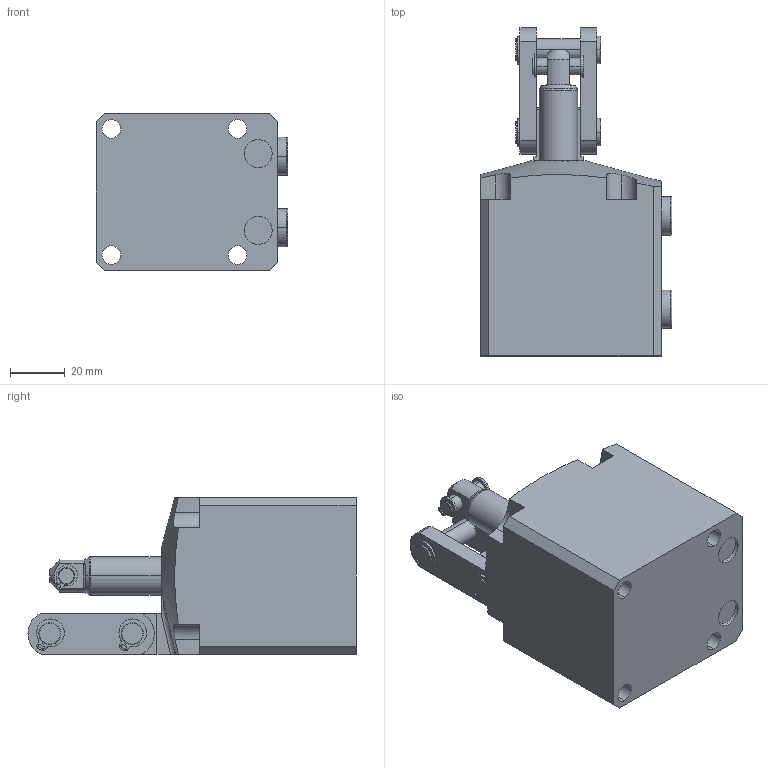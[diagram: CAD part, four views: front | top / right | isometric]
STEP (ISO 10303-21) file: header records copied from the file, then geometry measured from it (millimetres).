
FILE_DESCRIPTION(/* description */ (''),/* implementation_level */ '2;1');
FILE_NAME(/* name */ 'BPC06-R.stp',/* time_stamp */ '2025-01-05T10:02:18+08:00',/* author */ (''),/* organization */ (''),/* preprocessor_version */ 'ST-DEVELOPER v16.7',/* originating_system */ 'SIEMENS PLM Software NX 12.0',/* authorisation */ '');
FILE_SCHEMA (('AUTOMOTIVE_DESIGN { 1 0 10303 214 3 1 1 1 }'));
Length unit declared in the file: millimetre
Products named in the file (5): BPC06-R-03; BPC06-R-01; BPC06-R-02; BPC06-R-04; BPC06-R_stp
Assembly tree (5 placements, depth 2):
  BPC06-R_stp
    BPC06-R-04  x2
    BPC06-R-02
    BPC06-R-01
    BPC06-R-03
Bounding box: 69.8 x 119.5 x 57 mm (x, y, z)
Volume: 256735.3 mm3; surface area: 40093.7 mm2
Topology: 5 solids, 5 shells, 273 faces, 683 edges, 440 vertices
Faces by surface type: plane 120, cylinder 113, torus 21, cone 17, bspline 2
Entity records: 8031 total; most frequent: CARTESIAN_POINT 1679, DIRECTION 1360, ORIENTED_EDGE 1274, EDGE_CURVE 637, AXIS2_PLACEMENT_3D 514, VERTEX_POINT 412, LINE 332, VECTOR 332
